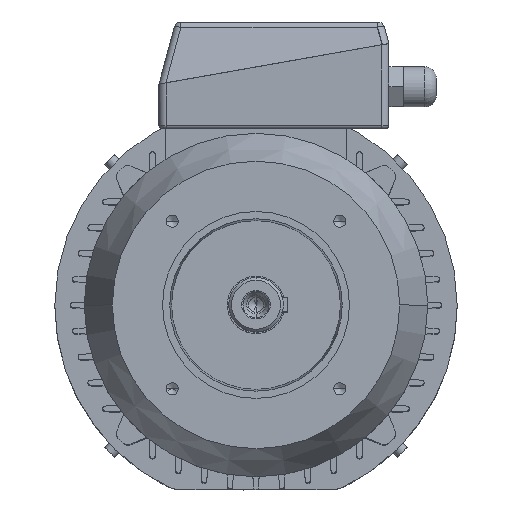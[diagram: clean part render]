
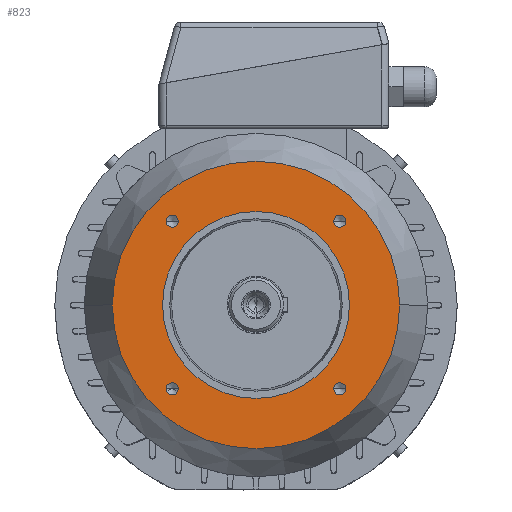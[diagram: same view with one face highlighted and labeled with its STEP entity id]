
A CAD part, top view. The second image highlights one B-rep face of the part: STEP entity #823.
In plain terms, the highlighted planar face has unit normal (0, 0, 1).
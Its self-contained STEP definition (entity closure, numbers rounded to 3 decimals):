
#308 = CIRCLE ( 'NONE', #309, 100. ) ;
#309 = AXIS2_PLACEMENT_3D ( 'NONE', #310, #311, #312 ) ;
#310 = CARTESIAN_POINT ( 'NONE',  ( 0., 0., 58. ) ) ;
#311 = DIRECTION ( 'NONE',  ( 0., 0., 1. ) ) ;
#312 = DIRECTION ( 'NONE',  ( 1., 0., 0. ) ) ;
#555 = EDGE_LOOP ( 'NONE', ( #15791, #14809 ) ) ;
#823 = ADVANCED_FACE ( 'NONE', ( #10159, #10160, #10161, #10162, #10163, #10164 ), #10165, .F. ) ;
#1761 = VERTEX_POINT ( 'NONE', #10488 ) ;
#2012 = EDGE_CURVE ( 'NONE', #3006, #1761, #10651, .T. ) ;
#2469 = VERTEX_POINT ( 'NONE', #10869 ) ;
#2710 = EDGE_CURVE ( 'NONE', #13099, #2469, #10977, .T. ) ;
#2957 = CIRCLE ( 'NONE', #2958, 4.25 ) ;
#2958 = AXIS2_PLACEMENT_3D ( 'NONE', #2959, #2960, #2961 ) ;
#2959 = CARTESIAN_POINT ( 'NONE',  ( 58.336, 58.336, 58. ) ) ;
#2960 = DIRECTION ( 'NONE',  ( 0., 0., 1. ) ) ;
#2961 = DIRECTION ( 'NONE',  ( 1., 0., 0. ) ) ;
#3006 = VERTEX_POINT ( 'NONE', #11145 ) ;
#3596 = CIRCLE ( 'NONE', #3597, 65. ) ;
#3597 = AXIS2_PLACEMENT_3D ( 'NONE', #3598, #3599, #3600 ) ;
#3598 = CARTESIAN_POINT ( 'NONE',  ( 0., 0., 58. ) ) ;
#3599 = DIRECTION ( 'NONE',  ( 0., 0., 1. ) ) ;
#3600 = DIRECTION ( 'NONE',  ( 1., 0., 0. ) ) ;
#3679 = CARTESIAN_POINT ( 'NONE',  ( 62.586, 58.336, 58. ) ) ;
#3772 = CIRCLE ( 'NONE', #3773, 4.25 ) ;
#3773 = AXIS2_PLACEMENT_3D ( 'NONE', #3774, #3775, #3776 ) ;
#3774 = CARTESIAN_POINT ( 'NONE',  ( 58.336, 58.336, 58. ) ) ;
#3775 = DIRECTION ( 'NONE',  ( 0., 0., 1. ) ) ;
#3776 = DIRECTION ( 'NONE',  ( 1., 0., 0. ) ) ;
#4269 = CARTESIAN_POINT ( 'NONE',  ( 54.086, 58.336, 58. ) ) ;
#4660 = VERTEX_POINT ( 'NONE', #12366 ) ;
#5141 = CIRCLE ( 'NONE', #5142, 4.25 ) ;
#5142 = AXIS2_PLACEMENT_3D ( 'NONE', #5143, #5144, #5145 ) ;
#5143 = CARTESIAN_POINT ( 'NONE',  ( 58.336, -58.336, 58. ) ) ;
#5144 = DIRECTION ( 'NONE',  ( 0., 0., 1. ) ) ;
#5145 = DIRECTION ( 'NONE',  ( 1., 0., 0. ) ) ;
#5557 = CARTESIAN_POINT ( 'NONE',  ( 65., 0., 58. ) ) ;
#5672 = CARTESIAN_POINT ( 'NONE',  ( -100., 0., 58. ) ) ;
#5715 = CIRCLE ( 'NONE', #5716, 65. ) ;
#5716 = AXIS2_PLACEMENT_3D ( 'NONE', #5717, #5718, #5719 ) ;
#5717 = CARTESIAN_POINT ( 'NONE',  ( 0., 0., 58. ) ) ;
#5718 = DIRECTION ( 'NONE',  ( 0., 0., 1. ) ) ;
#5719 = DIRECTION ( 'NONE',  ( 1., 0., 0. ) ) ;
#5801 = CARTESIAN_POINT ( 'NONE',  ( 100., 0., 58. ) ) ;
#5976 = CIRCLE ( 'NONE', #5977, 100. ) ;
#5977 = AXIS2_PLACEMENT_3D ( 'NONE', #5978, #5979, #5980 ) ;
#5978 = CARTESIAN_POINT ( 'NONE',  ( 0., 0., 58. ) ) ;
#5979 = DIRECTION ( 'NONE',  ( 0., 0., 1. ) ) ;
#5980 = DIRECTION ( 'NONE',  ( 1., 0., 0. ) ) ;
#6113 = CARTESIAN_POINT ( 'NONE',  ( -54.086, 58.336, 58. ) ) ;
#6188 = CIRCLE ( 'NONE', #6189, 4.25 ) ;
#6189 = AXIS2_PLACEMENT_3D ( 'NONE', #6190, #6191, #6192 ) ;
#6190 = CARTESIAN_POINT ( 'NONE',  ( -58.336, 58.336, 58. ) ) ;
#6191 = DIRECTION ( 'NONE',  ( 0., 0., 1. ) ) ;
#6192 = DIRECTION ( 'NONE',  ( 1., 0., 0. ) ) ;
#6620 = CARTESIAN_POINT ( 'NONE',  ( -62.586, 58.336, 58. ) ) ;
#6717 = CIRCLE ( 'NONE', #6718, 4.25 ) ;
#6718 = AXIS2_PLACEMENT_3D ( 'NONE', #6721, #6722, #6723 ) ;
#6721 = CARTESIAN_POINT ( 'NONE',  ( -58.336, 58.336, 58. ) ) ;
#6722 = DIRECTION ( 'NONE',  ( 0., 0., 1. ) ) ;
#6723 = DIRECTION ( 'NONE',  ( 1., 0., 0. ) ) ;
#8085 = CARTESIAN_POINT ( 'NONE',  ( 54.086, -58.336, 58. ) ) ;
#8086 = CIRCLE ( 'NONE', #8087, 4.25 ) ;
#8087 = AXIS2_PLACEMENT_3D ( 'NONE', #8088, #8089, #8090 ) ;
#8088 = CARTESIAN_POINT ( 'NONE',  ( -58.336, -58.336, 58. ) ) ;
#8089 = DIRECTION ( 'NONE',  ( 0., 0., 1. ) ) ;
#8090 = DIRECTION ( 'NONE',  ( 1., 0., 0. ) ) ;
#8395 = EDGE_LOOP ( 'NONE', ( #13519, #12540 ) ) ;
#8459 = ORIENTED_EDGE ( 'NONE', *, *, #9673, .T. ) ;
#8579 = EDGE_CURVE ( 'NONE', #9559, #9613, #308, .T. ) ;
#8671 = ORIENTED_EDGE ( 'NONE', *, *, #8579, .T. ) ;
#8798 = EDGE_LOOP ( 'NONE', ( #8671, #8459 ) ) ;
#8850 = EDGE_CURVE ( 'NONE', #4660, #9520, #3596, .T. ) ;
#8867 = VERTEX_POINT ( 'NONE', #3679 ) ;
#8914 = EDGE_CURVE ( 'NONE', #9154, #8867, #3772, .T. ) ;
#8931 = ORIENTED_EDGE ( 'NONE', *, *, #8850, .F. ) ;
#9047 = ORIENTED_EDGE ( 'NONE', *, *, #9580, .F. ) ;
#9154 = VERTEX_POINT ( 'NONE', #4269 ) ;
#9174 = EDGE_LOOP ( 'NONE', ( #9047, #8931 ) ) ;
#9235 = ORIENTED_EDGE ( 'NONE', *, *, #2710, .F. ) ;
#9348 = EDGE_CURVE ( 'NONE', #2469, #13099, #5141, .T. ) ;
#9520 = VERTEX_POINT ( 'NONE', #5557 ) ;
#9559 = VERTEX_POINT ( 'NONE', #5672 ) ;
#9580 = EDGE_CURVE ( 'NONE', #9520, #4660, #5715, .T. ) ;
#9613 = VERTEX_POINT ( 'NONE', #5801 ) ;
#9673 = EDGE_CURVE ( 'NONE', #9613, #9559, #5976, .T. ) ;
#9886 = VERTEX_POINT ( 'NONE', #6113 ) ;
#10129 = EDGE_CURVE ( 'NONE', #11095, #9886, #6188, .T. ) ;
#10159 = FACE_BOUND ( 'NONE', #555, .T. ) ;
#10160 = FACE_BOUND ( 'NONE', #14543, .T. ) ;
#10161 = FACE_BOUND ( 'NONE', #9174, .T. ) ;
#10162 = FACE_OUTER_BOUND ( 'NONE', #8798, .T. ) ;
#10163 = FACE_BOUND ( 'NONE', #8395, .T. ) ;
#10164 = FACE_BOUND ( 'NONE', #12267, .T. ) ;
#10165 = PLANE ( 'NONE',  #10166 ) ;
#10166 = AXIS2_PLACEMENT_3D ( 'NONE', #10167, #10168, #10169 ) ;
#10167 = CARTESIAN_POINT ( 'NONE',  ( 0., 100., 58. ) ) ;
#10168 = DIRECTION ( 'NONE',  ( 0., 0., -1. ) ) ;
#10169 = DIRECTION ( 'NONE',  ( -1., 0., 0. ) ) ;
#10488 = CARTESIAN_POINT ( 'NONE',  ( -54.086, -58.336, 58. ) ) ;
#10651 = CIRCLE ( 'NONE', #10652, 4.25 ) ;
#10652 = AXIS2_PLACEMENT_3D ( 'NONE', #10653, #10657, #10658 ) ;
#10653 = CARTESIAN_POINT ( 'NONE',  ( -58.336, -58.336, 58. ) ) ;
#10657 = DIRECTION ( 'NONE',  ( 0., 0., 1. ) ) ;
#10658 = DIRECTION ( 'NONE',  ( 1., 0., 0. ) ) ;
#10741 = ORIENTED_EDGE ( 'NONE', *, *, #10129, .F. ) ;
#10869 = CARTESIAN_POINT ( 'NONE',  ( 62.586, -58.336, 58. ) ) ;
#10977 = CIRCLE ( 'NONE', #10978, 4.25 ) ;
#10978 = AXIS2_PLACEMENT_3D ( 'NONE', #10979, #10980, #10981 ) ;
#10979 = CARTESIAN_POINT ( 'NONE',  ( 58.336, -58.336, 58. ) ) ;
#10980 = DIRECTION ( 'NONE',  ( 0., 0., 1. ) ) ;
#10981 = DIRECTION ( 'NONE',  ( 1., 0., 0. ) ) ;
#11095 = VERTEX_POINT ( 'NONE', #6620 ) ;
#11145 = CARTESIAN_POINT ( 'NONE',  ( -62.586, -58.336, 58. ) ) ;
#11308 = EDGE_CURVE ( 'NONE', #9886, #11095, #6717, .T. ) ;
#11707 = ORIENTED_EDGE ( 'NONE', *, *, #11308, .F. ) ;
#12267 = EDGE_LOOP ( 'NONE', ( #11707, #10741 ) ) ;
#12366 = CARTESIAN_POINT ( 'NONE',  ( -65., 0., 58. ) ) ;
#12540 = ORIENTED_EDGE ( 'NONE', *, *, #2012, .F. ) ;
#13099 = VERTEX_POINT ( 'NONE', #8085 ) ;
#13100 = EDGE_CURVE ( 'NONE', #1761, #3006, #8086, .T. ) ;
#13519 = ORIENTED_EDGE ( 'NONE', *, *, #13100, .F. ) ;
#14155 = ORIENTED_EDGE ( 'NONE', *, *, #9348, .F. ) ;
#14543 = EDGE_LOOP ( 'NONE', ( #14155, #9235 ) ) ;
#14809 = ORIENTED_EDGE ( 'NONE', *, *, #8914, .F. ) ;
#15377 = EDGE_CURVE ( 'NONE', #8867, #9154, #2957, .T. ) ;
#15791 = ORIENTED_EDGE ( 'NONE', *, *, #15377, .F. ) ;
